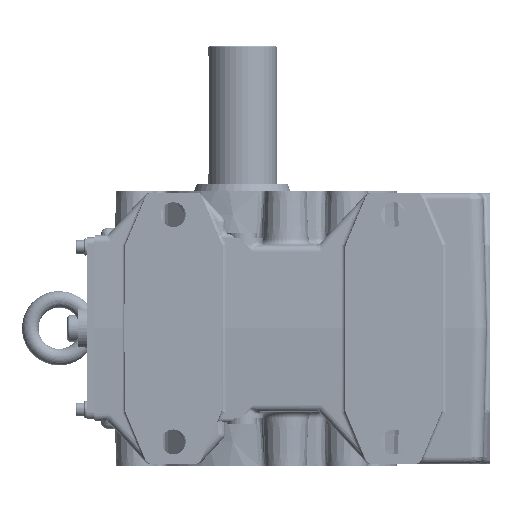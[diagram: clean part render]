
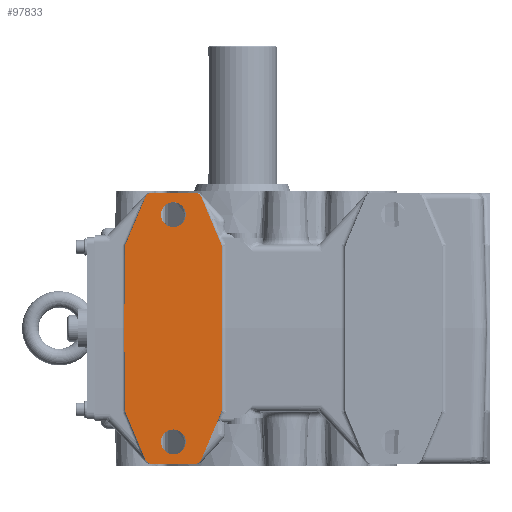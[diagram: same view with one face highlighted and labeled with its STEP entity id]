
A CAD part, left-side view. The second image highlights one B-rep face of the part: STEP entity #97833.
In plain terms, the highlighted planar face has unit normal (-1, 0, 0).
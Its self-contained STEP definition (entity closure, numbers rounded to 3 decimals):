
#76928=CARTESIAN_POINT('',(-112.,84.614,61.429));
#76929=VERTEX_POINT('',#76928);
#76930=CARTESIAN_POINT('',(-112.,82.368,66.75));
#76931=VERTEX_POINT('',#76930);
#76932=CARTESIAN_POINT('',(-112.,84.212,67.526));
#76933=DIRECTION('',(-1.0,0.0,0.0));
#76934=DIRECTION('',(0.0,0.388,-0.922));
#76935=AXIS2_PLACEMENT_3D('',#76932,#76933,#76934);
#76936=ELLIPSE('',#76935,82.895,2.0);
#76937=EDGE_CURVE('',#76929,#76931,#76936,.T.);
#76985=CARTESIAN_POINT('',(-112.,85.011,59.485));
#76986=VERTEX_POINT('',#76985);
#76987=CARTESIAN_POINT('',(-112.,85.011,59.485));
#76988=CARTESIAN_POINT('',(-112.,85.01,59.818));
#76989=CARTESIAN_POINT('',(-112.,84.976,60.151));
#76990=CARTESIAN_POINT('',(-112.,84.909,60.478));
#76991=CARTESIAN_POINT('',(-112.,84.842,60.804));
#76992=CARTESIAN_POINT('',(-112.,84.744,61.123));
#76993=CARTESIAN_POINT('',(-112.,84.614,61.429));
#76994=B_SPLINE_CURVE_WITH_KNOTS('',3,(#76987,#76988,#76989,#76990,#76991,#76992,#76993),.UNSPECIFIED.,.F.,.U.,(4,3,4),(-0.2,-0.1,0.0),.UNSPECIFIED.);
#76995=EDGE_CURVE('',#76986,#76929,#76994,.T.);
#77022=CARTESIAN_POINT('',(-112.,86.064,0.));
#77023=VERTEX_POINT('',#77022);
#77024=CARTESIAN_POINT('',(-112.,87.0,67.526));
#77025=DIRECTION('',(-1.0,0.0,0.0));
#77026=DIRECTION('',(0.0,0.0,-1.0));
#77027=AXIS2_PLACEMENT_3D('',#77024,#77025,#77026);
#77028=ELLIPSE('',#77027,76.403,2.0);
#77029=EDGE_CURVE('',#77023,#76986,#77028,.T.);
#77055=CARTESIAN_POINT('',(-112.,85.011,-59.485));
#77056=VERTEX_POINT('',#77055);
#77057=CARTESIAN_POINT('',(-112.,87.0,-67.526));
#77058=DIRECTION('',(-1.0,0.0,0.0));
#77059=DIRECTION('',(0.0,0.0,1.0));
#77060=AXIS2_PLACEMENT_3D('',#77057,#77058,#77059);
#77061=ELLIPSE('',#77060,76.403,2.0);
#77062=EDGE_CURVE('',#77056,#77023,#77061,.T.);
#84093=CARTESIAN_POINT('',(-112.,15.392,61.431));
#84094=VERTEX_POINT('',#84093);
#84095=CARTESIAN_POINT('',(-112.,15.0,59.49));
#84096=VERTEX_POINT('',#84095);
#84097=CARTESIAN_POINT('',(-112.,20.0,59.49));
#84098=DIRECTION('',(1.0,0.0,0.0));
#84099=DIRECTION('',(0.0,-0.98,0.198));
#84100=AXIS2_PLACEMENT_3D('',#84097,#84098,#84099);
#84101=CIRCLE('',#84100,5.);
#84102=EDGE_CURVE('',#84094,#84096,#84101,.T.);
#84125=CARTESIAN_POINT('',(-112.,29.712,95.44));
#84126=VERTEX_POINT('',#84125);
#84127=CARTESIAN_POINT('',(-112.,29.712,95.44));
#84128=DIRECTION('',(0.0,-0.388,-0.922));
#84129=VECTOR('',#84128,36.901);
#84130=LINE('',#84127,#84129);
#84131=EDGE_CURVE('',#84126,#84094,#84130,.T.);
#84153=CARTESIAN_POINT('',(-112.,34.32,98.5));
#84154=VERTEX_POINT('',#84153);
#84155=CARTESIAN_POINT('',(-112.,34.32,93.5));
#84156=DIRECTION('',(1.0,0.0,0.0));
#84157=DIRECTION('',(0.0,0.0,1.0));
#84158=AXIS2_PLACEMENT_3D('',#84155,#84156,#84157);
#84159=CIRCLE('',#84158,5.0);
#84160=EDGE_CURVE('',#84154,#84126,#84159,.T.);
#84178=CARTESIAN_POINT('',(-112.,65.68,98.5));
#84179=VERTEX_POINT('',#84178);
#84180=CARTESIAN_POINT('',(-112.,65.68,98.5));
#84181=DIRECTION('',(0.0,-1.0,0.0));
#84182=VECTOR('',#84181,31.36);
#84183=LINE('',#84180,#84182);
#84184=EDGE_CURVE('',#84179,#84154,#84183,.T.);
#84206=CARTESIAN_POINT('',(-112.,70.288,95.44));
#84207=VERTEX_POINT('',#84206);
#84208=CARTESIAN_POINT('',(-112.,65.68,93.5));
#84209=DIRECTION('',(1.0,0.0,0.0));
#84210=DIRECTION('',(0.0,0.0,1.0));
#84211=AXIS2_PLACEMENT_3D('',#84208,#84209,#84210);
#84212=CIRCLE('',#84211,5.0);
#84213=EDGE_CURVE('',#84207,#84179,#84212,.T.);
#84231=CARTESIAN_POINT('',(-112.0,82.368,66.75));
#84232=DIRECTION('',(0.0,-0.388,0.922));
#84233=VECTOR('',#84232,31.13);
#84234=LINE('',#84231,#84233);
#84235=EDGE_CURVE('',#76931,#84207,#84234,.T.);
#97249=CARTESIAN_POINT('',(-112.,84.614,-61.429));
#97250=VERTEX_POINT('',#97249);
#97251=CARTESIAN_POINT('',(-112.,84.614,-61.429));
#97252=CARTESIAN_POINT('',(-112.,84.744,-61.122));
#97253=CARTESIAN_POINT('',(-112.,84.843,-60.803));
#97254=CARTESIAN_POINT('',(-112.,84.909,-60.477));
#97255=CARTESIAN_POINT('',(-112.,84.976,-60.15));
#97256=CARTESIAN_POINT('',(-112.,85.01,-59.818));
#97257=CARTESIAN_POINT('',(-112.,85.011,-59.485));
#97258=B_SPLINE_CURVE_WITH_KNOTS('',3,(#97251,#97252,#97253,#97254,#97255,#97256,#97257),.UNSPECIFIED.,.F.,.U.,(4,3,4),(-0.2,-0.1,0.0),.UNSPECIFIED.);
#97259=EDGE_CURVE('',#97250,#77056,#97258,.T.);
#97286=CARTESIAN_POINT('',(-112.,82.368,-66.75));
#97287=VERTEX_POINT('',#97286);
#97288=CARTESIAN_POINT('',(-112.,84.212,-67.526));
#97289=DIRECTION('',(-1.0,0.0,0.0));
#97290=DIRECTION('',(0.0,0.388,0.922));
#97291=AXIS2_PLACEMENT_3D('',#97288,#97289,#97290);
#97292=ELLIPSE('',#97291,82.895,2.0);
#97293=EDGE_CURVE('',#97287,#97250,#97292,.T.);
#97317=CARTESIAN_POINT('',(-112.,70.288,-95.44));
#97318=VERTEX_POINT('',#97317);
#97319=CARTESIAN_POINT('',(-112.0,70.288,-95.44));
#97320=DIRECTION('',(0.0,0.388,0.922));
#97321=VECTOR('',#97320,31.13);
#97322=LINE('',#97319,#97321);
#97323=EDGE_CURVE('',#97318,#97287,#97322,.T.);
#97341=CARTESIAN_POINT('',(-112.,65.68,-98.5));
#97342=VERTEX_POINT('',#97341);
#97343=CARTESIAN_POINT('',(-112.,65.68,-93.5));
#97344=DIRECTION('',(1.0,0.0,0.0));
#97345=DIRECTION('',(0.0,0.0,-1.0));
#97346=AXIS2_PLACEMENT_3D('',#97343,#97344,#97345);
#97347=CIRCLE('',#97346,5.0);
#97348=EDGE_CURVE('',#97342,#97318,#97347,.T.);
#97366=CARTESIAN_POINT('',(-112.,34.32,-98.5));
#97367=VERTEX_POINT('',#97366);
#97368=CARTESIAN_POINT('',(-112.,34.32,-98.5));
#97369=DIRECTION('',(0.0,1.0,0.0));
#97370=VECTOR('',#97369,31.36);
#97371=LINE('',#97368,#97370);
#97372=EDGE_CURVE('',#97367,#97342,#97371,.T.);
#97394=CARTESIAN_POINT('',(-112.,29.712,-95.44));
#97395=VERTEX_POINT('',#97394);
#97396=CARTESIAN_POINT('',(-112.,34.32,-93.5));
#97397=DIRECTION('',(1.0,0.0,0.0));
#97398=DIRECTION('',(0.0,0.0,-1.0));
#97399=AXIS2_PLACEMENT_3D('',#97396,#97397,#97398);
#97400=CIRCLE('',#97399,5.0);
#97401=EDGE_CURVE('',#97395,#97367,#97400,.T.);
#97419=CARTESIAN_POINT('',(-112.,15.392,-61.431));
#97420=VERTEX_POINT('',#97419);
#97421=CARTESIAN_POINT('',(-112.,15.392,-61.431));
#97422=DIRECTION('',(0.0,0.388,-0.922));
#97423=VECTOR('',#97422,36.901);
#97424=LINE('',#97421,#97423);
#97425=EDGE_CURVE('',#97420,#97395,#97424,.T.);
#97446=CARTESIAN_POINT('',(-112.,15.0,-59.49));
#97447=VERTEX_POINT('',#97446);
#97448=CARTESIAN_POINT('',(-112.,20.0,-59.49));
#97449=DIRECTION('',(1.0,0.0,0.0));
#97450=DIRECTION('',(0.0,-0.98,-0.198));
#97451=AXIS2_PLACEMENT_3D('',#97448,#97449,#97450);
#97452=CIRCLE('',#97451,5.0);
#97453=EDGE_CURVE('',#97447,#97420,#97452,.T.);
#97471=CARTESIAN_POINT('',(-112.,15.0,59.49));
#97472=DIRECTION('',(0.0,0.0,-1.0));
#97473=VECTOR('',#97472,118.981);
#97474=LINE('',#97471,#97473);
#97475=EDGE_CURVE('',#84096,#97447,#97474,.T.);
#97785=CARTESIAN_POINT('',(-112.,-29.479,11.268));
#97786=DIRECTION('',(1.0,0.0,0.0));
#97787=DIRECTION('',(0.0,0.0,-1.0));
#97788=AXIS2_PLACEMENT_3D('',#97785,#97786,#97787);
#97789=PLANE('',#97788);
#97790=ORIENTED_EDGE('',*,*,#77062,.F.);
#97791=ORIENTED_EDGE('',*,*,#97259,.F.);
#97792=ORIENTED_EDGE('',*,*,#97293,.F.);
#97793=ORIENTED_EDGE('',*,*,#97323,.F.);
#97794=ORIENTED_EDGE('',*,*,#97348,.F.);
#97795=ORIENTED_EDGE('',*,*,#97372,.F.);
#97796=ORIENTED_EDGE('',*,*,#97401,.F.);
#97797=ORIENTED_EDGE('',*,*,#97425,.F.);
#97798=ORIENTED_EDGE('',*,*,#97453,.F.);
#97799=ORIENTED_EDGE('',*,*,#97475,.F.);
#97800=ORIENTED_EDGE('',*,*,#84102,.F.);
#97801=ORIENTED_EDGE('',*,*,#84131,.F.);
#97802=ORIENTED_EDGE('',*,*,#84160,.F.);
#97803=ORIENTED_EDGE('',*,*,#84184,.F.);
#97804=ORIENTED_EDGE('',*,*,#84213,.F.);
#97805=ORIENTED_EDGE('',*,*,#84235,.F.);
#97806=ORIENTED_EDGE('',*,*,#76937,.F.);
#97807=ORIENTED_EDGE('',*,*,#76995,.F.);
#97808=ORIENTED_EDGE('',*,*,#77029,.F.);
#97809=EDGE_LOOP('',(#97790,#97791,#97792,#97793,#97794,#97795,#97796,#97797,#97798,#97799,#97800,#97801,#97802,#97803,#97804,#97805,#97806,#97807,#97808));
#97810=FACE_OUTER_BOUND('',#97809,.T.);
#97811=CARTESIAN_POINT('',(-112.,50.0,-73.5));
#97812=VERTEX_POINT('',#97811);
#97813=CARTESIAN_POINT('',(-112.,50.0,-82.5));
#97814=DIRECTION('',(1.0,0.0,0.0));
#97815=DIRECTION('',(0.0,0.0,1.0));
#97816=AXIS2_PLACEMENT_3D('',#97813,#97814,#97815);
#97817=CIRCLE('',#97816,9.0);
#97818=EDGE_CURVE('',#97812,#97812,#97817,.T.);
#97819=ORIENTED_EDGE('',*,*,#97818,.T.);
#97820=EDGE_LOOP('',(#97819));
#97821=FACE_BOUND('',#97820,.T.);
#97822=CARTESIAN_POINT('',(-112.,50.,91.5));
#97823=VERTEX_POINT('',#97822);
#97824=CARTESIAN_POINT('',(-112.,50.,82.5));
#97825=DIRECTION('',(1.0,0.0,0.0));
#97826=DIRECTION('',(0.0,0.0,1.0));
#97827=AXIS2_PLACEMENT_3D('',#97824,#97825,#97826);
#97828=CIRCLE('',#97827,9.0);
#97829=EDGE_CURVE('',#97823,#97823,#97828,.T.);
#97830=ORIENTED_EDGE('',*,*,#97829,.T.);
#97831=EDGE_LOOP('',(#97830));
#97832=FACE_BOUND('',#97831,.T.);
#97833=ADVANCED_FACE('',(#97810,#97821,#97832),#97789,.F.);
